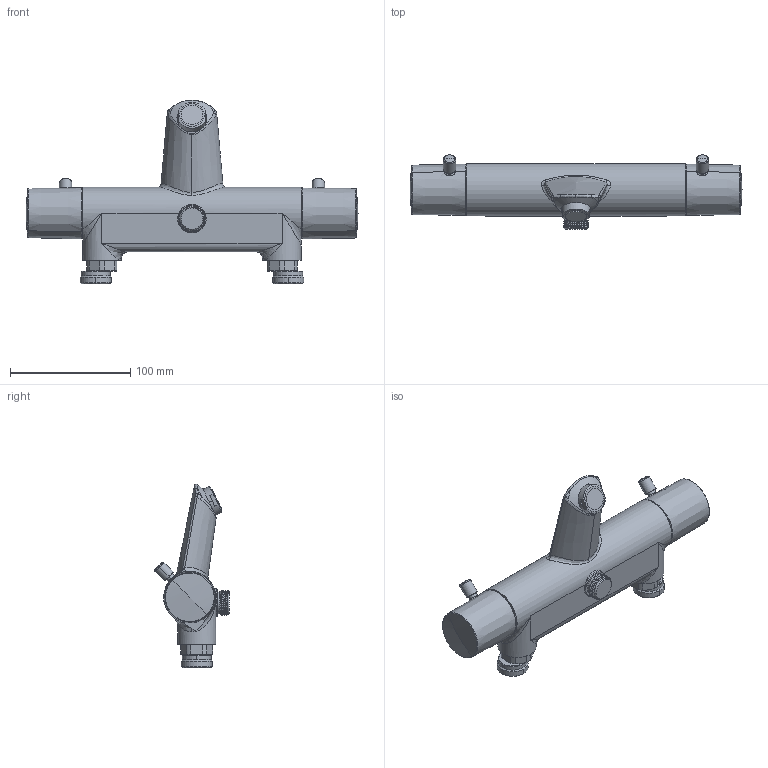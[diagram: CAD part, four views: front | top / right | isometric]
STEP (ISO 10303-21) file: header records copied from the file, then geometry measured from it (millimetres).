
FILE_DESCRIPTION((''),'2;1');
FILE_NAME('57561--00','2026-09-10T13:34:21',('simi1'),(''),'CREO PARAMETRIC BY PTC INC, 2022244','CREO PARAMETRIC BY PTC INC, 2022244','');
FILE_SCHEMA(('CONFIG_CONTROL_DESIGN'));
Length unit declared in the file: millimetre
Products named in the file (1): 57561--00
Bounding box: 276.3 x 61.87 x 152.81 mm (x, y, z)
Surface area: 66925.2 mm2 (no closed solid volume)
Topology: 0 solids, 16 shells, 205 faces, 525 edges, 322 vertices
Faces by surface type: cylinder 52, bspline 46, plane 39, cone 38, torus 20, sphere 10
Entity records: 10708 total; most frequent: CARTESIAN_POINT 6171, ORIENTED_EDGE 958, DIRECTION 878, EDGE_CURVE 517, AXIS2_PLACEMENT_3D 377, VERTEX_POINT 322, CIRCLE 218, EDGE_LOOP 205
